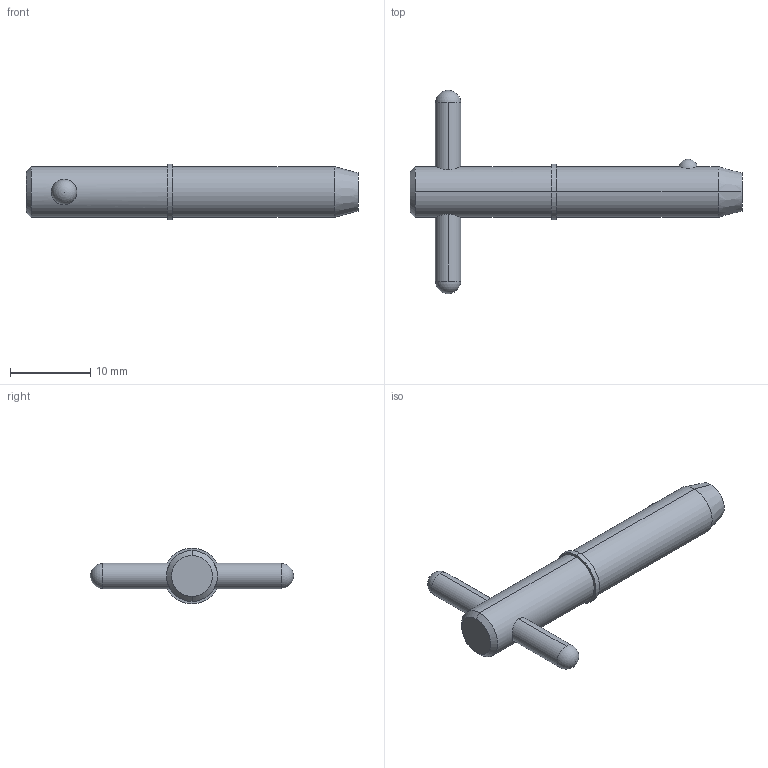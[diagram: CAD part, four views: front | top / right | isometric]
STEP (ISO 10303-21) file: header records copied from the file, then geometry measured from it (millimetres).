
FILE_DESCRIPTION (( 'STEP AP203' ), '1' );
FILE_NAME ('33018.W2506.step', '2024-11-19T17:07:55', ( '' ), ( '' ), 'SwSTEP 2.0', 'SolidWorks 2019', '' );
FILE_SCHEMA (( 'CONFIG_CONTROL_DESIGN' ));
Length unit declared in the file: millimetre
Products named in the file (3): Part1_33018.W2506; 33018.W2506; Part2_33018.W2506
Assembly tree (2 placements, depth 2):
  33018.W2506
    Part1_33018.W2506
    Part2_33018.W2506
Bounding box: 41.45 x 25.4 x 6.99 mm (x, y, z)
Volume: 1438 mm3; surface area: 1176.4 mm2
Topology: 2 solids, 2 shells, 22 faces, 47 edges, 30 vertices
Faces by surface type: cylinder 10, sphere 4, cone 4, plane 4
Entity records: 993 total; most frequent: CARTESIAN_POINT 236, DIRECTION 110, ORIENTED_EDGE 82, AXIS2_PLACEMENT_3D 48, EDGE_CURVE 41, EDGE_LOOP 27, PERSON_AND_ORGANIZATION 26, VERTEX_POINT 26
